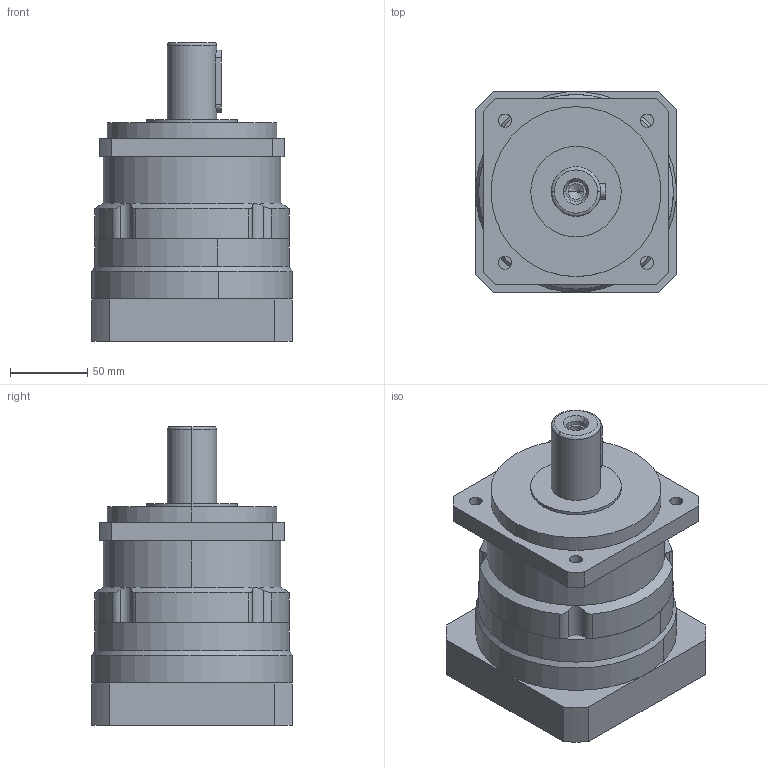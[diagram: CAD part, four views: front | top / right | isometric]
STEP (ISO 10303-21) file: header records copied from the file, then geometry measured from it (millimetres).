
FILE_DESCRIPTION (( 'STEP AP203' ), '1' );
FILE_NAME ('PLM120-L1-19-95-130.STEP', '2022-07-05T06:00:17', ( 'Windows User' ), ( 'P R C' ), 'SwSTEP 2.0', 'SolidWorks 2016', '' );
FILE_SCHEMA (( 'CONFIG_CONTROL_DESIGN' ));
Length unit declared in the file: millimetre
Products named in the file (8): 邧埴瑩 10x8x40; PM120 珨撰蟀諉啣 130選 095x7 130xM8 27.5L; PLM120-L1-19-95-130; PA120-本体齿圈; PX120-薊粣ん-19_LZ03; PA120-狟裔; 囀鞠褒蹟佪-M8℅25; 粣創-6009 45x75x16
Assembly tree (7 placements, depth 2):
  PLM120-L1-19-95-130
    PA120-本体齿圈
    PX120-薊粣ん-19_LZ03
    PA120-狟裔
    囀鞠褒蹟佪-M8℅25
    粣創-6009 45x75x16
    邧埴瑩 10x8x40
    PM120 珨撰蟀諉啣 130選 095x7 130xM8 27.5L
Bounding box: 130 x 130 x 193.5 mm (x, y, z)
Volume: 1659324.5 mm3; surface area: 210828.3 mm2
Topology: 7 solids, 7 shells, 971 faces, 2640 edges, 1741 vertices
Faces by surface type: plane 499, bspline 286, cylinder 168, cone 18
Entity records: 42648 total; most frequent: CARTESIAN_POINT 19066, ORIENTED_EDGE 5260, DIRECTION 3909, EDGE_CURVE 2630, VERTEX_POINT 1741, AXIS2_PLACEMENT_3D 1318, VECTOR 1273, LINE 1273
